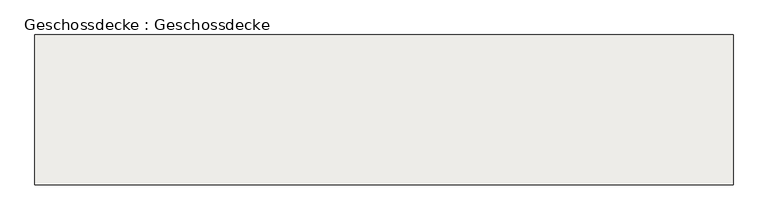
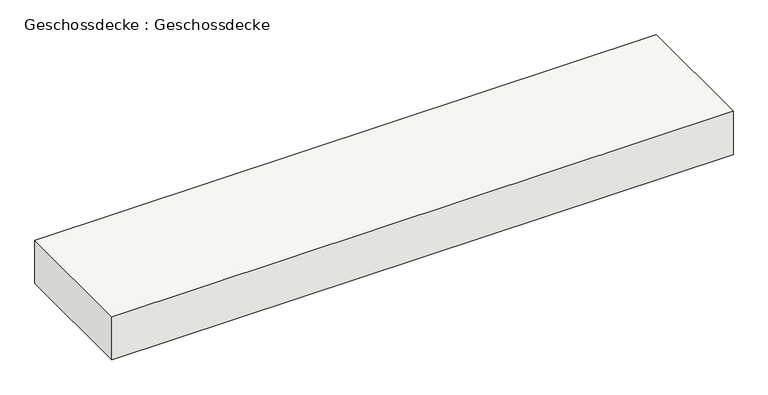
"""IFC4 building model written with IfcOpenShell, lengths in millimetres: slab geometry, Geschossdecke : Geschossdecke."""

from ifc_helpers import new_model, si_unit, frame, origin, place, context, project, spatial, polyline, outline, extrude, source, transform, mapped, element, save


def geschossdecke_geschossdecke_8e1ff118(model_context):
    return source(origin(), model_context, "Body", "SweptSolid", [
        extrude(outline(polyline([(9324.1639552, 7018.9102119), (9324.1639552, 7601.7372809), (12035.8855919, 7601.7372809), (12035.8855919, 7018.9102119), (9324.1639552, 7018.9102119)])), frame((0.0, 0.0, 2950.0), z_axis=(0.0, 0.0, 1.0), x_axis=(1.0, 0.0, 0.0)), (0.0, 0.0, 1.0), 200.0),
    ])


if __name__ == "__main__":
    model = new_model("IFC4")
    model_context = context("Model", 3, world=origin())
    ifc_project = project(units=[si_unit("LENGTHUNIT", "METRE", prefix="MILLI")], contexts=[model_context])
    site = spatial("IfcSite", under=ifc_project)
    building = spatial("IfcBuilding", under=site)
    placement = place(None, origin())
    geschossdecke_geschossdecke_shape = geschossdecke_geschossdecke_8e1ff118(model_context)
    element("IfcSlab", 1, ObjectType="Geschossdecke : Geschossdecke", at=placement, inside=building, context=model_context, shape_type="MappedRepresentation", body=[
        mapped(geschossdecke_geschossdecke_shape, transform((0.0, 0.0, 0.0), x_axis=(1.0, 0.0, 0.0), y_axis=(0.0, 1.0, 0.0), z_axis=(0.0, 0.0, 1.0))),
    ])
    save(model, "model.ifc")
